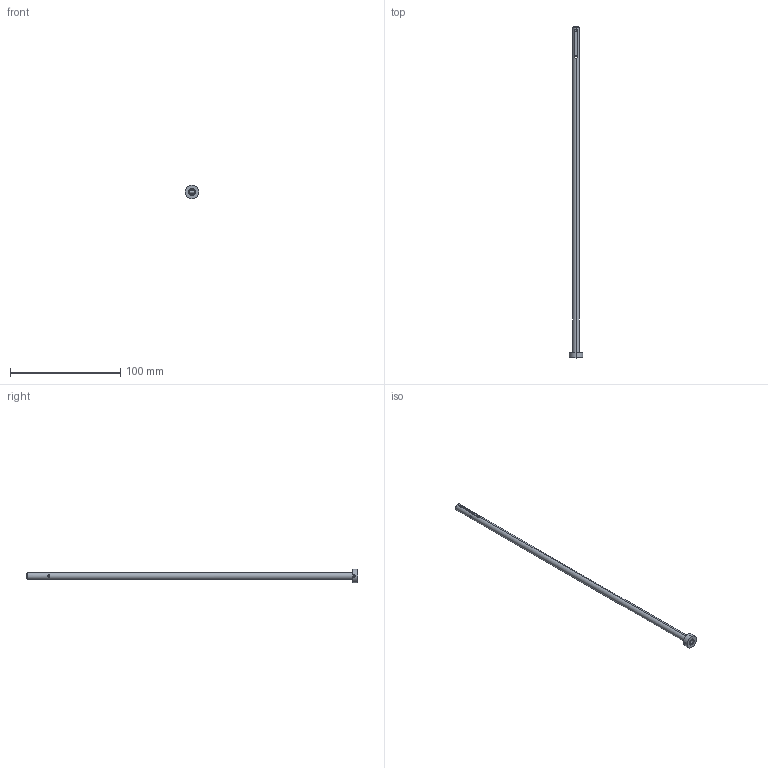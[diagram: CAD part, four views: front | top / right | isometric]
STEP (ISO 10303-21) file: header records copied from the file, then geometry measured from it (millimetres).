
FILE_DESCRIPTION (( 'STEP AP203' ), '1' );
FILE_NAME ('SGDE-607Cx300.STEP', '2017-01-10T15:39:20', ( 'Balzi' ), ( '' ), 'SwSTEP 2.0', 'SolidWorks 2016', '' );
FILE_SCHEMA (( 'CONFIG_CONTROL_DESIGN' ));
Length unit declared in the file: millimetre
Products named in the file (1): SGDE-607Cx300
Bounding box: 12 x 301.2 x 12 mm (x, y, z)
Volume: 4907.3 mm3; surface area: 10529.3 mm2
Topology: 1 solids, 1 shells, 86 faces, 238 edges, 156 vertices
Faces by surface type: cylinder 48, plane 32, cone 6
Entity records: 3363 total; most frequent: CARTESIAN_POINT 1085, ORIENTED_EDGE 476, DIRECTION 432, EDGE_CURVE 238, AXIS2_PLACEMENT_3D 159, VERTEX_POINT 156, VECTOR 114, LINE 114
